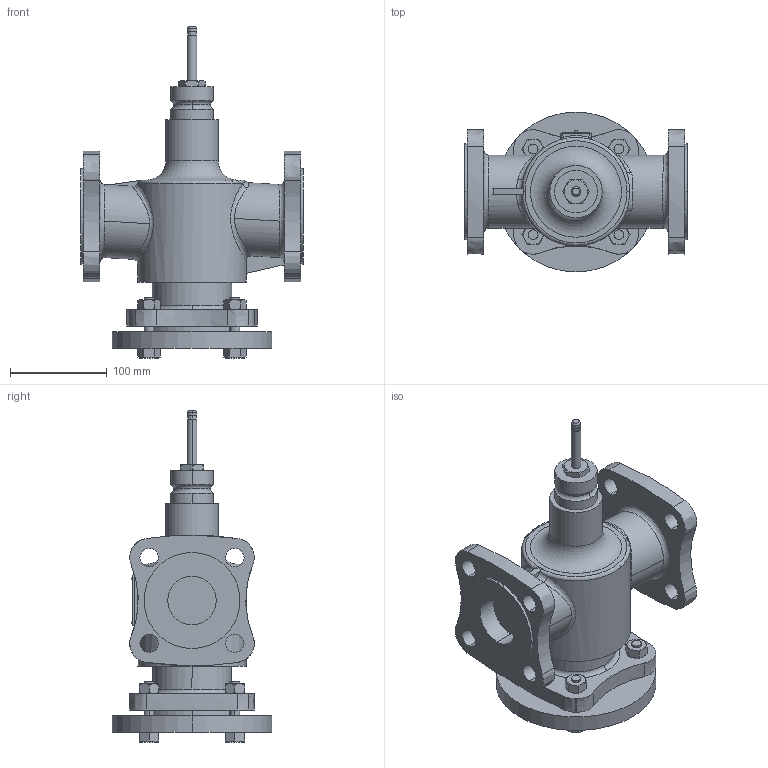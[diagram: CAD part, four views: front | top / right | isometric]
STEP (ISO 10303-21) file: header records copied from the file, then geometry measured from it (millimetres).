
FILE_DESCRIPTION(/* description */ ('Step214'),/* implementation_level */ '2;1');
FILE_NAME(/* name */ 'VVF53 DN50.stp',/* time_stamp */ '2015-11-10T14:20:45+01:00',/* author */ (''),/* organization */ ('Siemens'),/* preprocessor_version */ 'ST-DEVELOPER v15',/* originating_system */ 'SIEMENS PLM Software NX 8.5',/* authorisation */ 'for Duktil only');
FILE_SCHEMA (('AUTOMOTIVE_DESIGN { 1 0 10303 214 3 1 1 1 }'));
Length unit declared in the file: millimetre
Products named in the file (1): Volc19F47525lfk2
Bounding box: 230 x 165 x 342.5 mm (x, y, z)
Volume: 2907118.1 mm3; surface area: 260369.6 mm2
Topology: 1 solids, 2 shells, 297 faces, 763 edges, 503 vertices
Faces by surface type: plane 112, cylinder 91, cone 38, extrusion 31, bspline 12, torus 11, sphere 2
Full cylindrical faces by diameter (mm): 54 x1
Entity records: 12359 total; most frequent: CARTESIAN_POINT 5548, ORIENTED_EDGE 1508, DIRECTION 1283, EDGE_CURVE 754, VERTEX_POINT 500, AXIS2_PLACEMENT_3D 498, EDGE_LOOP 360, ADVANCED_FACE 297
